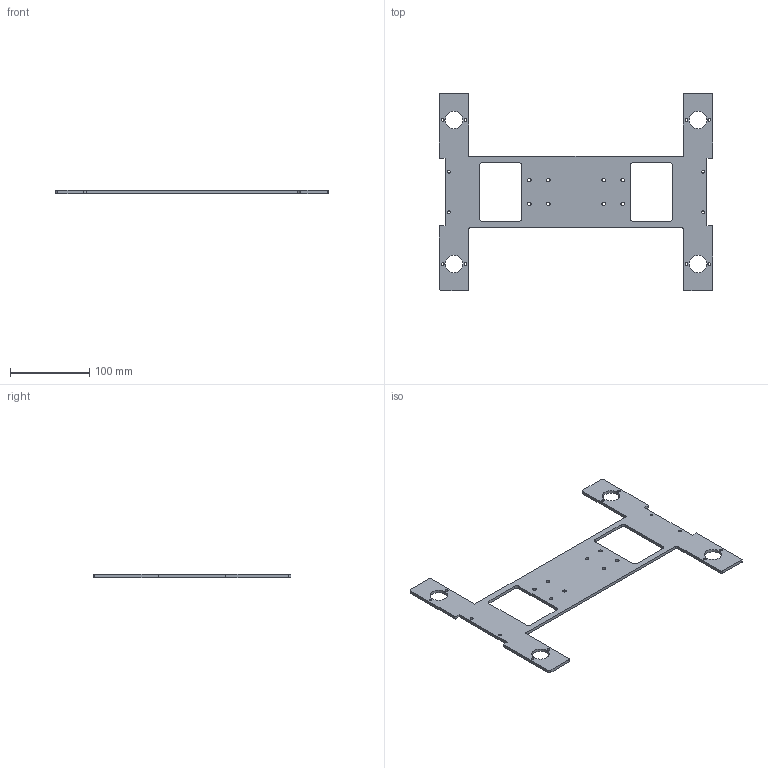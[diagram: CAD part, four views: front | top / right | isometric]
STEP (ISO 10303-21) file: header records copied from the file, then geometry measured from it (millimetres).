
FILE_DESCRIPTION (( 'STEP AP203' ), '1' );
FILE_NAME ('base euro.STEP', '2025-10-13T10:23:11', ( '' ), ( '' ), 'SwSTEP 2.0', 'SolidWorks 2023', '' );
FILE_SCHEMA (( 'CONFIG_CONTROL_DESIGN' ));
Length unit declared in the file: millimetre
Products named in the file (1): base euro
Bounding box: 345 x 250 x 3.8 mm (x, y, z)
Volume: 121697.9 mm3; surface area: 73708.9 mm2
Topology: 1 solids, 1 shells, 96 faces, 282 edges, 188 vertices
Faces by surface type: cylinder 66, plane 30
Entity records: 3439 total; most frequent: DIRECTION 608, CARTESIAN_POINT 567, ORIENTED_EDGE 564, EDGE_CURVE 282, AXIS2_PLACEMENT_3D 229, VERTEX_POINT 188, VECTOR 150, LINE 150
